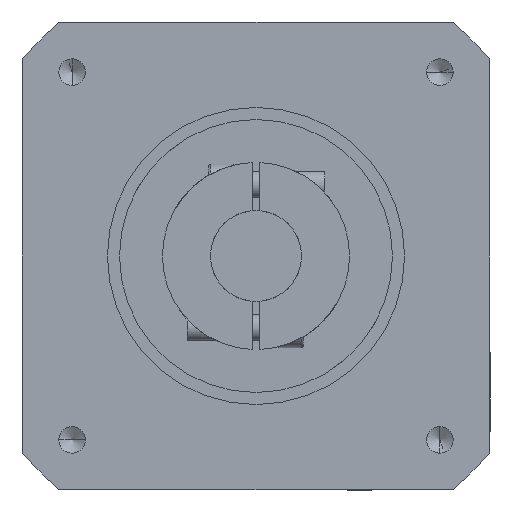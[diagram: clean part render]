
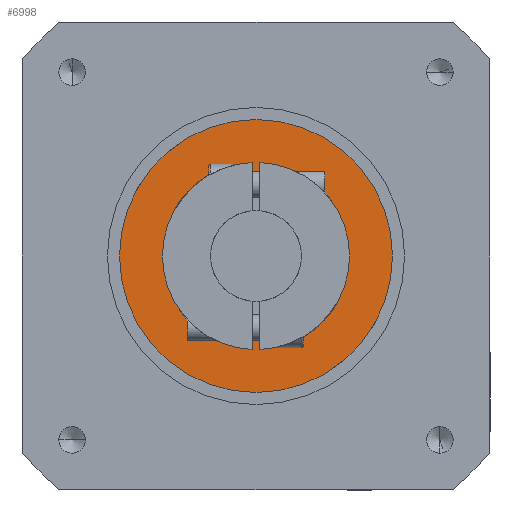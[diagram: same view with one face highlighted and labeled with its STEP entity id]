
A CAD part, front view. The second image highlights one B-rep face of the part: STEP entity #6998.
In plain terms, the highlighted planar face has unit normal (0, -1, 0).
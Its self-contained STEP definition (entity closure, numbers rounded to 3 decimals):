
#135 = CARTESIAN_POINT ( 'NONE',  ( 0., -130.5, 0. ) ) ;
#137 = ORIENTED_EDGE ( 'NONE', *, *, #2516, .F. ) ;
#778 = VERTEX_POINT ( 'NONE', #7247 ) ;
#895 = DIRECTION ( 'NONE',  ( 0., 0., 1. ) ) ;
#1153 = EDGE_CURVE ( 'NONE', #778, #8208, #6673, .T. ) ;
#1218 = EDGE_CURVE ( 'NONE', #6629, #8831, #6241, .T. ) ;
#1335 = ORIENTED_EDGE ( 'NONE', *, *, #1218, .T. ) ;
#1368 = CARTESIAN_POINT ( 'NONE',  ( 0., -130.5, 24.5 ) ) ;
#1808 = CARTESIAN_POINT ( 'NONE',  ( -24.5, -130.5, 0. ) ) ;
#2068 = AXIS2_PLACEMENT_3D ( 'NONE', #7205, #3168, #7887 ) ;
#2148 = AXIS2_PLACEMENT_3D ( 'NONE', #135, #5202, #895 ) ;
#2393 = AXIS2_PLACEMENT_3D ( 'NONE', #1808, #4052, #8685 ) ;
#2498 = EDGE_CURVE ( 'NONE', #8831, #6629, #5148, .T. ) ;
#2516 = EDGE_CURVE ( 'NONE', #8208, #778, #3348, .T. ) ;
#2895 = CARTESIAN_POINT ( 'NONE',  ( 0., -130.5, 52.5 ) ) ;
#3168 = DIRECTION ( 'NONE',  ( 0., 1., 0. ) ) ;
#3348 = CIRCLE ( 'NONE', #2068, 52.5 ) ;
#3634 = FACE_OUTER_BOUND ( 'NONE', #5253, .T. ) ;
#3713 = EDGE_LOOP ( 'NONE', ( #1335, #6585 ) ) ;
#4051 = AXIS2_PLACEMENT_3D ( 'NONE', #5285, #5279, #5257 ) ;
#4052 = DIRECTION ( 'NONE',  ( 0., 1., 0. ) ) ;
#4071 = AXIS2_PLACEMENT_3D ( 'NONE', #5525, #5493, #5485 ) ;
#4666 = PLANE ( 'NONE',  #2393 ) ;
#5148 = CIRCLE ( 'NONE', #2148, 24.5 ) ;
#5202 = DIRECTION ( 'NONE',  ( 0., 1., 0. ) ) ;
#5253 = EDGE_LOOP ( 'NONE', ( #137, #6259 ) ) ;
#5257 = DIRECTION ( 'NONE',  ( 0., 0., 1. ) ) ;
#5279 = DIRECTION ( 'NONE',  ( 0., 1., 0. ) ) ;
#5285 = CARTESIAN_POINT ( 'NONE',  ( 0., -130.5, 0. ) ) ;
#5485 = DIRECTION ( 'NONE',  ( 0., 0., 1. ) ) ;
#5493 = DIRECTION ( 'NONE',  ( 0., 1., 0. ) ) ;
#5525 = CARTESIAN_POINT ( 'NONE',  ( 0., -130.5, 0. ) ) ;
#5727 = CARTESIAN_POINT ( 'NONE',  ( 0., -130.5, -24.5 ) ) ;
#6241 = CIRCLE ( 'NONE', #4051, 24.5 ) ;
#6259 = ORIENTED_EDGE ( 'NONE', *, *, #1153, .F. ) ;
#6585 = ORIENTED_EDGE ( 'NONE', *, *, #2498, .T. ) ;
#6629 = VERTEX_POINT ( 'NONE', #1368 ) ;
#6673 = CIRCLE ( 'NONE', #4071, 52.5 ) ;
#6998 = ADVANCED_FACE ( 'NONE', ( #3634, #8950 ), #4666, .F. ) ;
#7205 = CARTESIAN_POINT ( 'NONE',  ( 0., -130.5, 0. ) ) ;
#7247 = CARTESIAN_POINT ( 'NONE',  ( 0., -130.5, -52.5 ) ) ;
#7887 = DIRECTION ( 'NONE',  ( 0., 0., 1. ) ) ;
#8208 = VERTEX_POINT ( 'NONE', #2895 ) ;
#8685 = DIRECTION ( 'NONE',  ( 0., 0., 1. ) ) ;
#8831 = VERTEX_POINT ( 'NONE', #5727 ) ;
#8950 = FACE_BOUND ( 'NONE', #3713, .T. ) ;
